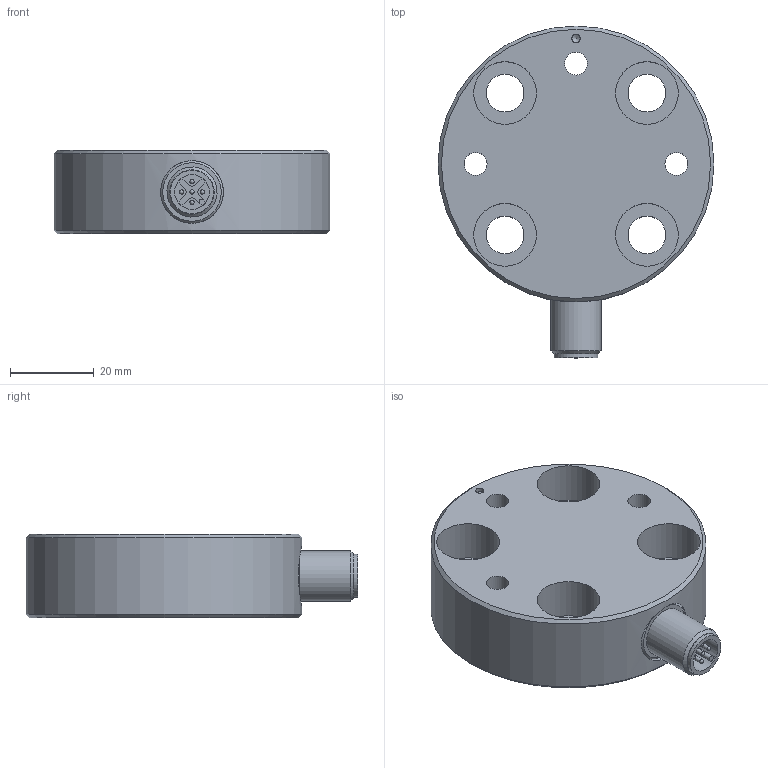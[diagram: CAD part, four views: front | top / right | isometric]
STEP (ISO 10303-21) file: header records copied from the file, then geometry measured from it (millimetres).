
FILE_DESCRIPTION((''),'2;1');
FILE_NAME('K:\Daten\Pras5-M12R.stp','2010-02-09T12:16:03',('kamp'),(''),'Autodesk Inventor 2008','Autodesk Inventor 2008','');
FILE_SCHEMA(('AUTOMOTIVE_DESIGN { 1 0 10303 214 1 1 1 1 }'));
Length unit declared in the file: millimetre
Products named in the file (1): Bauteil8
Bounding box: 66 x 79.4 x 20 mm (x, y, z)
Volume: 57325.7 mm3; surface area: 15367.9 mm2
Topology: 1 solids, 1 shells, 68 faces, 166 edges, 106 vertices
Faces by surface type: bspline 23, plane 21, cylinder 15, sphere 5, cone 4
Full cylindrical faces by diameter (mm): 1 x5, 8.3 x1, 10.4 x1, 12 x1, 15 x1, 66 x1
Entity records: 2167 total; most frequent: CARTESIAN_POINT 670, DIRECTION 292, ORIENTED_EDGE 244, EDGE_LOOP 128, AXIS2_PLACEMENT_3D 126, EDGE_CURVE 122, VERTEX_POINT 102, CIRCLE 80
